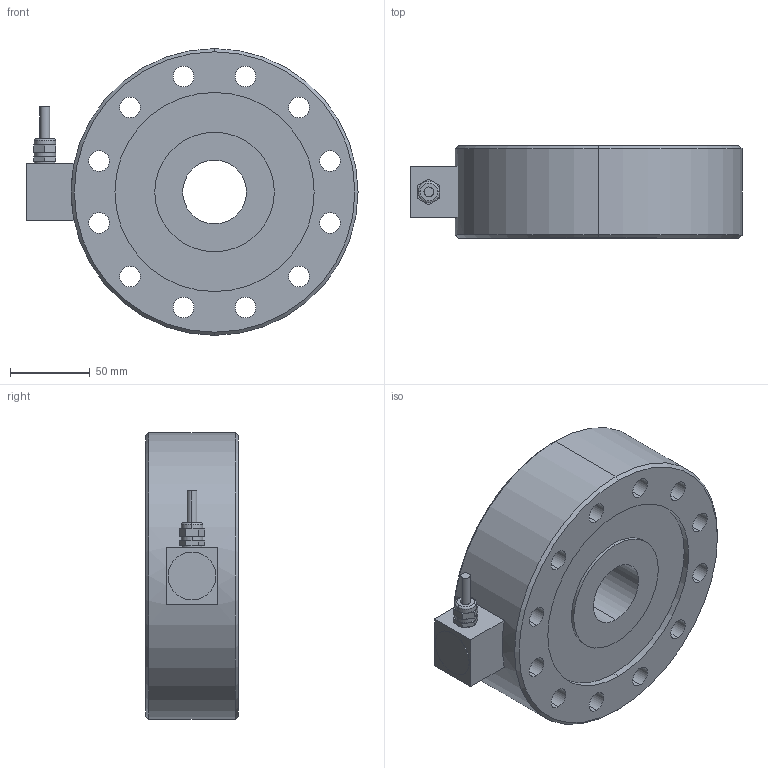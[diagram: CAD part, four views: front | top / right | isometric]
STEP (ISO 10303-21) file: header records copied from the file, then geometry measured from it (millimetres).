
FILE_DESCRIPTION (( 'STEP AP203' ), '1' );
FILE_NAME ('363YS-30t-YZ 3D耀倰.STEP', '2026-06-18T00:37:58', ( '' ), ( '' ), 'SwSTEP 2.0', 'SolidWorks 2024', '' );
FILE_SCHEMA (( 'CONFIG_CONTROL_DESIGN' ));
Length unit declared in the file: millimetre
Products named in the file (1): 363YS-30t-YZ  3D模型
Bounding box: 208.3 x 58 x 180 mm (x, y, z)
Volume: 1269073.7 mm3; surface area: 121129.6 mm2
Topology: 1 solids, 1 shells, 82 faces, 198 edges, 130 vertices
Faces by surface type: cylinder 46, plane 30, cone 4, torus 2
Entity records: 2565 total; most frequent: DIRECTION 466, CARTESIAN_POINT 411, ORIENTED_EDGE 396, EDGE_CURVE 198, AXIS2_PLACEMENT_3D 185, VERTEX_POINT 130, EDGE_LOOP 120, CIRCLE 102
